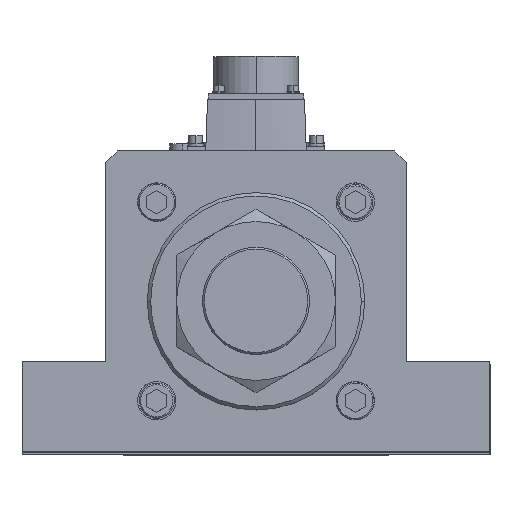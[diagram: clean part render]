
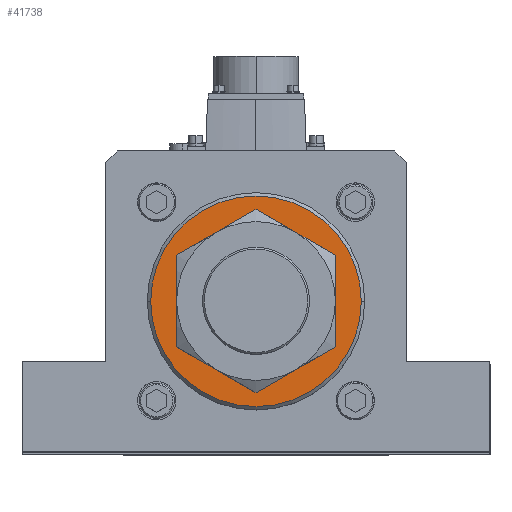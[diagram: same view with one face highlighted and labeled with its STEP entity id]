
A CAD part, top view. The second image highlights one B-rep face of the part: STEP entity #41738.
In plain terms, the highlighted planar face has unit normal (0, 0, 1).
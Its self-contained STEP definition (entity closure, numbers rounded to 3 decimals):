
#1767 = DIRECTION ( 'NONE',  ( 0., 0., 1. ) ) ;
#4971 = CIRCLE ( 'NONE', #47931, 63. ) ;
#5460 = VERTEX_POINT ( 'NONE', #31053 ) ;
#9489 = VERTEX_POINT ( 'NONE', #42919 ) ;
#10254 = DIRECTION ( 'NONE',  ( 1., 0., 0. ) ) ;
#11067 = VERTEX_POINT ( 'NONE', #51195 ) ;
#14087 = EDGE_LOOP ( 'NONE', ( #19035, #52647 ) ) ;
#14634 = DIRECTION ( 'NONE',  ( 1., 0., 0. ) ) ;
#15018 = DIRECTION ( 'NONE',  ( 0., 0., 1. ) ) ;
#16948 = AXIS2_PLACEMENT_3D ( 'NONE', #49033, #22972, #10254 ) ;
#17987 = EDGE_CURVE ( 'NONE', #21055, #5460, #54925, .T. ) ;
#19035 = ORIENTED_EDGE ( 'NONE', *, *, #54831, .T. ) ;
#20803 = DIRECTION ( 'NONE',  ( 1., 0., 0. ) ) ;
#21055 = VERTEX_POINT ( 'NONE', #24913 ) ;
#21633 = CARTESIAN_POINT ( 'NONE',  ( 0., 0., 862. ) ) ;
#22649 = CIRCLE ( 'NONE', #16948, 40.5 ) ;
#22972 = DIRECTION ( 'NONE',  ( 0., 0., -1. ) ) ;
#24913 = CARTESIAN_POINT ( 'NONE',  ( -63., 0., 862. ) ) ;
#25630 = FACE_OUTER_BOUND ( 'NONE', #41988, .T. ) ;
#28062 = ORIENTED_EDGE ( 'NONE', *, *, #51071, .T. ) ;
#29728 = FACE_BOUND ( 'NONE', #14087, .T. ) ;
#31053 = CARTESIAN_POINT ( 'NONE',  ( 63., 0., 862. ) ) ;
#31443 = CARTESIAN_POINT ( 'NONE',  ( 0., 0., 862. ) ) ;
#31739 = ORIENTED_EDGE ( 'NONE', *, *, #17987, .T. ) ;
#32145 = AXIS2_PLACEMENT_3D ( 'NONE', #50690, #34106, #20803 ) ;
#34106 = DIRECTION ( 'NONE',  ( 0., 0., -1. ) ) ;
#35011 = EDGE_CURVE ( 'NONE', #11067, #9489, #22649, .T. ) ;
#37049 = PLANE ( 'NONE',  #51138 ) ;
#41738 = ADVANCED_FACE ( 'NONE', ( #29728, #25630 ), #37049, .T. ) ;
#41988 = EDGE_LOOP ( 'NONE', ( #31739, #28062 ) ) ;
#42919 = CARTESIAN_POINT ( 'NONE',  ( 40.5, 0., 862. ) ) ;
#43484 = DIRECTION ( 'NONE',  ( 1., 0., 0. ) ) ;
#44726 = DIRECTION ( 'NONE',  ( 1., 0., 0. ) ) ;
#47931 = AXIS2_PLACEMENT_3D ( 'NONE', #31443, #1767, #44726 ) ;
#49033 = CARTESIAN_POINT ( 'NONE',  ( 0., 0., 862. ) ) ;
#50690 = CARTESIAN_POINT ( 'NONE',  ( 0., 0., 862. ) ) ;
#51071 = EDGE_CURVE ( 'NONE', #5460, #21055, #4971, .T. ) ;
#51138 = AXIS2_PLACEMENT_3D ( 'NONE', #54025, #15018, #14634 ) ;
#51195 = CARTESIAN_POINT ( 'NONE',  ( -40.5, 0., 862. ) ) ;
#52078 = DIRECTION ( 'NONE',  ( 0., 0., 1. ) ) ;
#52647 = ORIENTED_EDGE ( 'NONE', *, *, #35011, .T. ) ;
#54025 = CARTESIAN_POINT ( 'NONE',  ( 0., 0., 862. ) ) ;
#54727 = AXIS2_PLACEMENT_3D ( 'NONE', #21633, #52078, #43484 ) ;
#54831 = EDGE_CURVE ( 'NONE', #9489, #11067, #55769, .T. ) ;
#54925 = CIRCLE ( 'NONE', #54727, 63. ) ;
#55769 = CIRCLE ( 'NONE', #32145, 40.5 ) ;
